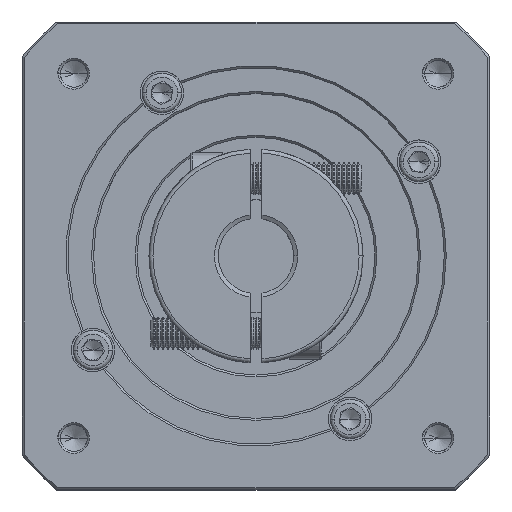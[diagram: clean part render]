
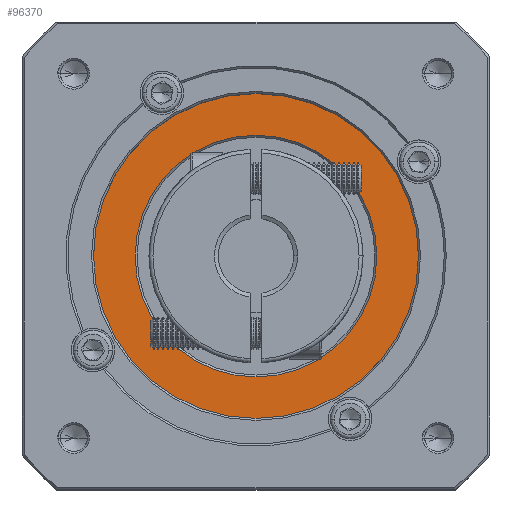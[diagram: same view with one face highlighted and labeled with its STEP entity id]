
A CAD part, top view. The second image highlights one B-rep face of the part: STEP entity #96370.
In plain terms, the highlighted planar face has unit normal (0, 0, 1).
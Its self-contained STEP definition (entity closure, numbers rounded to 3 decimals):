
#9900 = PLANE ( 'NONE',  #54503 ) ;
#10232 = DIRECTION ( 'NONE',  ( 1., 0., 0. ) ) ;
#10362 = DIRECTION ( 'NONE',  ( 1., 0., 0. ) ) ;
#10384 = CIRCLE ( 'NONE', #123118, 41. ) ;
#13934 = DIRECTION ( 'NONE',  ( 0., -1., 0. ) ) ;
#15797 = EDGE_CURVE ( 'NONE', #114282, #99721, #10384, .T. ) ;
#19743 = CARTESIAN_POINT ( 'NONE',  ( 86.534, 52.137, -34.026 ) ) ;
#20161 = CARTESIAN_POINT ( 'NONE',  ( 45.534, 52.137, -34.026 ) ) ;
#28060 = DIRECTION ( 'NONE',  ( 0., 0., -1. ) ) ;
#30120 = AXIS2_PLACEMENT_3D ( 'NONE', #92330, #28060, #90502 ) ;
#30908 = AXIS2_PLACEMENT_3D ( 'NONE', #72756, #137680, #104798 ) ;
#32728 = EDGE_LOOP ( 'NONE', ( #38576, #35056 ) ) ;
#35056 = ORIENTED_EDGE ( 'NONE', *, *, #131456, .T. ) ;
#38576 = ORIENTED_EDGE ( 'NONE', *, *, #128896, .T. ) ;
#38801 = ORIENTED_EDGE ( 'NONE', *, *, #15797, .T. ) ;
#40955 = EDGE_LOOP ( 'NONE', ( #38801, #58610 ) ) ;
#54503 = AXIS2_PLACEMENT_3D ( 'NONE', #85437, #117458, #10362 ) ;
#57512 = VERTEX_POINT ( 'NONE', #60218 ) ;
#58610 = ORIENTED_EDGE ( 'NONE', *, *, #68685, .T. ) ;
#60218 = CARTESIAN_POINT ( 'NONE',  ( 45.534, 82.637, -34.026 ) ) ;
#65573 = FACE_BOUND ( 'NONE', #32728, .T. ) ;
#68685 = EDGE_CURVE ( 'NONE', #99721, #114282, #121750, .T. ) ;
#72301 = FACE_OUTER_BOUND ( 'NONE', #40955, .T. ) ;
#72756 = CARTESIAN_POINT ( 'NONE',  ( 45.534, 52.137, -34.026 ) ) ;
#74471 = DIRECTION ( 'NONE',  ( 0., 0., 1. ) ) ;
#77564 = VERTEX_POINT ( 'NONE', #117490 ) ;
#78220 = DIRECTION ( 'NONE',  ( 0., 0., -1. ) ) ;
#85437 = CARTESIAN_POINT ( 'NONE',  ( 45.534, 52.137, -34.026 ) ) ;
#90502 = DIRECTION ( 'NONE',  ( 0., -1., 0. ) ) ;
#90969 = CIRCLE ( 'NONE', #30120, 30.5 ) ;
#92330 = CARTESIAN_POINT ( 'NONE',  ( 45.534, 52.137, -34.026 ) ) ;
#96370 = ADVANCED_FACE ( 'NONE', ( #72301, #65573 ), #9900, .T. ) ;
#97595 = CARTESIAN_POINT ( 'NONE',  ( 4.534, 52.137, -34.026 ) ) ;
#99721 = VERTEX_POINT ( 'NONE', #97595 ) ;
#104798 = DIRECTION ( 'NONE',  ( 1., 0., 0. ) ) ;
#109646 = CIRCLE ( 'NONE', #111546, 30.5 ) ;
#111546 = AXIS2_PLACEMENT_3D ( 'NONE', #121476, #78220, #13934 ) ;
#114282 = VERTEX_POINT ( 'NONE', #19743 ) ;
#117458 = DIRECTION ( 'NONE',  ( 0., 0., 1. ) ) ;
#117490 = CARTESIAN_POINT ( 'NONE',  ( 45.534, 21.637, -34.026 ) ) ;
#121476 = CARTESIAN_POINT ( 'NONE',  ( 45.534, 52.137, -34.026 ) ) ;
#121750 = CIRCLE ( 'NONE', #30908, 41. ) ;
#123118 = AXIS2_PLACEMENT_3D ( 'NONE', #20161, #74471, #10232 ) ;
#128896 = EDGE_CURVE ( 'NONE', #77564, #57512, #90969, .T. ) ;
#131456 = EDGE_CURVE ( 'NONE', #57512, #77564, #109646, .T. ) ;
#137680 = DIRECTION ( 'NONE',  ( 0., 0., 1. ) ) ;
